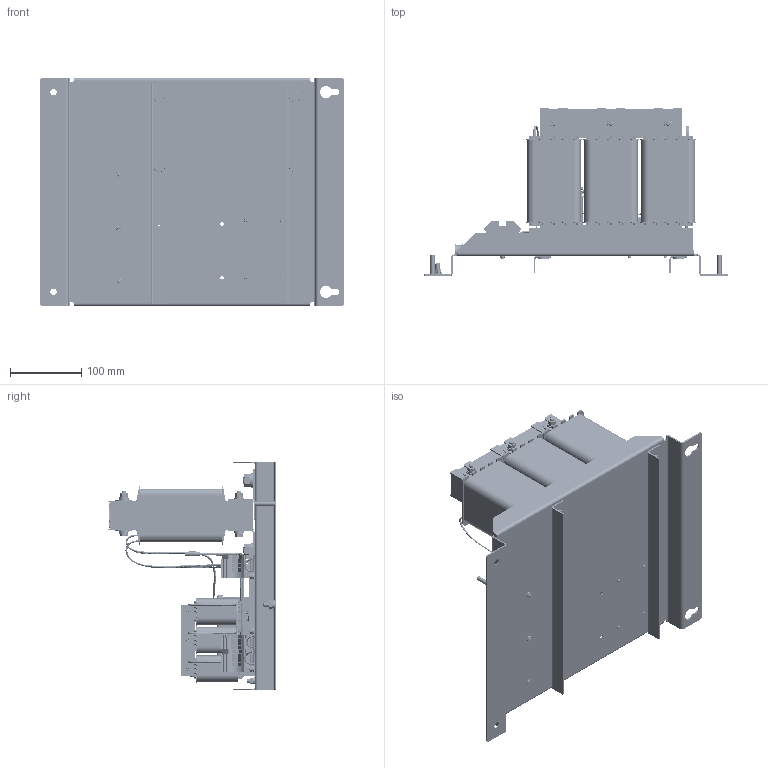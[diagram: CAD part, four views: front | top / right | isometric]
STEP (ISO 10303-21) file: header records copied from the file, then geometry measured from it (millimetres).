
FILE_DESCRIPTION((''),'2;1');
FILE_NAME('16A','2015-05-29T',('ED0010'),(''),'PRO/ENGINEER BY PARAMETRIC TECHNOLOGY CORPORATION, 2009360','PRO/ENGINEER BY PARAMETRIC TECHNOLOGY CORPORATION, 2009360','');
FILE_SCHEMA(('CONFIG_CONTROL_DESIGN'));
Products named in the file (1): 16A
Bounding box: 426 x 235.75 x 320 mm (x, y, z)
Surface area: 1485236.8 mm2 (no closed solid volume)
Topology: 0 solids, 316 shells, 10723 faces, 27323 edges, 17398 vertices
Faces by surface type: plane 5774, cylinder 3405, cone 576, bspline 478, torus 272, sphere 146, revolution 48, extrusion 24
Entity records: 376308 total; most frequent: CARTESIAN_POINT 115209, ORIENTED_EDGE 54462, DIRECTION 54302, EDGE_CURVE 27231, AXIS2_PLACEMENT_3D 18519, VERTEX_POINT 17398, VECTOR 17216, LINE 17192
